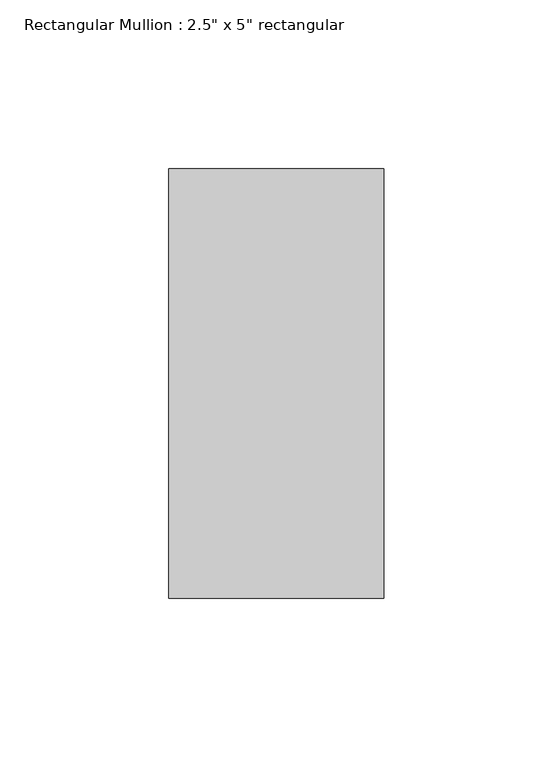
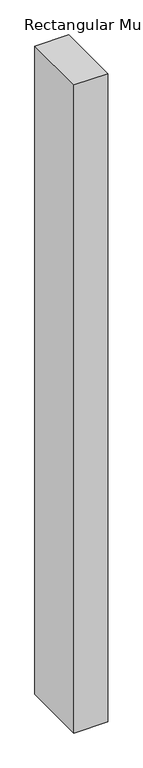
"""IFC4 building model written with IfcOpenShell, lengths in millimetres: member geometry."""

import ifcopenshell
import ifcopenshell.guid

model = None  # the IFC model being written
_history = None  # IfcOwnerHistory: only IFC2X3 demands one
_inside = {}  # id of a spatial element -> (the spatial element, [elements in it])
_under = {}  # id of a project, library or spatial element -> (it, [spatial elements below it])
_declared = {}  # id of a project -> (the project, [libraries it declares])
_typed = {}  # id of a type object -> (the type object, [elements of that type])
_made_of = {}  # id of a material, layer set ... -> (it, [elements and type objects made of it])


def new_model(schema):
    """Start an empty IFC model of exactly this schema.

    Asked for "IFC4X3", IfcOpenShell would pick the latest addendum, in which some entities
    have other attributes; the version numbers below select the first issue.
    IFC2X3 requires an IfcOwnerHistory on every rooted entity: one is made here for all.
    """
    global model, _history
    if schema == "IFC4X3":
        model = ifcopenshell.file(schema_version=(4, 3, 0, 0))
    else:
        model = ifcopenshell.file(schema=schema)
    _inside.clear()
    _under.clear()
    _declared.clear()
    _typed.clear()
    _made_of.clear()
    _history = None
    if model.schema == "IFC2X3":
        org = make("IfcOrganization", Name="unknown")
        user = make(
            "IfcPersonAndOrganization",
            ThePerson=make("IfcPerson", FamilyName="unknown"),
            TheOrganization=org,
        )
        app = make(
            "IfcApplication",
            ApplicationDeveloper=org,
            Version="unknown",
            ApplicationFullName="unknown",
            ApplicationIdentifier="unknown",
        )
        _history = make(
            "IfcOwnerHistory",
            OwningUser=user,
            OwningApplication=app,
            ChangeAction="ADDED",
            CreationDate=0,
        )
    return model


def make(cls, **values):
    """One entity of the class cls with the attributes given. An attribute that is None is left unset."""
    return model.create_entity(
        cls, **{name: value for name, value in values.items() if value is not None}
    )


def rooted(cls, **values):
    """An entity with a GlobalId (a new one), such as an element, a storey or a relation."""
    return make(cls, GlobalId=ifcopenshell.guid.new(), OwnerHistory=_history, **values)


def si_unit(unit_type, name, prefix=None):
    """IfcSIUnit, for example si_unit("LENGTHUNIT", "METRE", prefix="MILLI")."""
    return make("IfcSIUnit", UnitType=unit_type, Prefix=prefix, Name=name)


def assignment(units):
    """IfcUnitAssignment: the units of a project."""
    return None if units is None else make("IfcUnitAssignment", Units=units)


def point(xyz):
    """IfcCartesianPoint."""
    return None if xyz is None else make("IfcCartesianPoint", Coordinates=xyz)


def direction(xyz):
    """IfcDirection."""
    return None if xyz is None else make("IfcDirection", DirectionRatios=xyz)


def frame(location, z_axis=None, x_axis=None):
    """IfcAxis2Placement3D, a coordinate frame: its origin and axes. An axis left out is left unset."""
    return make(
        "IfcAxis2Placement3D",
        Location=point(location),
        Axis=direction(z_axis),
        RefDirection=direction(x_axis),
    )


def origin():
    """The frame at (0, 0, 0) with its axes left unset."""
    return frame((0.0, 0.0, 0.0))


def place(relative_to, where):
    """IfcLocalPlacement: puts the frame where relative to a parent placement (None: the world)."""
    return make(
        "IfcLocalPlacement", PlacementRelTo=relative_to, RelativePlacement=where
    )


def context(
    kind, dimensions, precision=None, world=None, true_north=None, identifier=None
):
    """IfcGeometricRepresentationContext, for example the 3D "Model" context."""
    return make(
        "IfcGeometricRepresentationContext",
        ContextIdentifier=identifier,
        ContextType=kind,
        CoordinateSpaceDimension=dimensions,
        Precision=precision,
        WorldCoordinateSystem=world,
        TrueNorth=true_north,
    )


def project(units=None, contexts=None):
    """IfcProject with its units and contexts."""
    return rooted(
        "IfcProject",
        Name="project",
        RepresentationContexts=contexts,
        UnitsInContext=assignment(units),
    )


def spatial(cls, under=None, at=None, **own):
    """A site, building, storey or space (cls), placed at a placement, below another one or the project."""
    s = rooted(cls, ObjectPlacement=at, **own)
    if under is not None:
        _under.setdefault(under.id(), (under, []))[1].append(s)
    return s


def polyline(points):
    """IfcPolyline through the points."""
    return make("IfcPolyline", Points=[point(p) for p in points])


def outline(outer, holes=None, kind="AREA"):
    """IfcArbitraryClosedProfileDef: a profile drawn as a closed curve; with holes, ...WithVoids."""
    if holes is None:
        return make("IfcArbitraryClosedProfileDef", ProfileType=kind, OuterCurve=outer)
    return make(
        "IfcArbitraryProfileDefWithVoids",
        ProfileType=kind,
        OuterCurve=outer,
        InnerCurves=holes,
    )


def extrude(swept, where, along, depth):
    """IfcExtrudedAreaSolid: the profile swept, set in the frame where, extruded along a direction by depth."""
    return make(
        "IfcExtrudedAreaSolid",
        SweptArea=swept,
        Position=where,
        ExtrudedDirection=direction(along),
        Depth=depth,
    )


def shape(context_of_items, identifier, shape_type, items):
    """IfcShapeRepresentation: the items that make up one representation, for example the "Body"."""
    return make(
        "IfcShapeRepresentation",
        ContextOfItems=context_of_items,
        RepresentationIdentifier=identifier,
        RepresentationType=shape_type,
        Items=items,
    )


def source(mapping_origin, context_of_items, identifier, shape_type, items):
    """IfcRepresentationMap: a shape defined once, which mapped items show again and again."""
    return make(
        "IfcRepresentationMap",
        MappingOrigin=mapping_origin,
        MappedRepresentation=shape(context_of_items, identifier, shape_type, items),
    )


def transform(
    local_origin,
    x_axis=None,
    y_axis=None,
    z_axis=None,
    scale=None,
    scale2=None,
    scale3=None,
    uniform=True,
):
    """IfcCartesianTransformationOperator3D, or its non-uniform kind. x_axis, y_axis, z_axis: its Axis1, 2, 3."""
    if uniform:
        return make(
            "IfcCartesianTransformationOperator3D",
            Axis1=direction(x_axis),
            Axis2=direction(y_axis),
            LocalOrigin=point(local_origin),
            Scale=scale,
            Axis3=direction(z_axis),
        )
    return make(
        "IfcCartesianTransformationOperator3DnonUniform",
        Axis1=direction(x_axis),
        Axis2=direction(y_axis),
        LocalOrigin=point(local_origin),
        Scale=scale,
        Axis3=direction(z_axis),
        Scale2=scale2,
        Scale3=scale3,
    )


def mapped(mapping_source, mapping_target):
    """IfcMappedItem: shows the shape of a source again, moved by a transform."""
    return make(
        "IfcMappedItem", MappingSource=mapping_source, MappingTarget=mapping_target
    )


def made_of(thing, what):
    """Note that an element or type object is made of a material, layer set ...; save() writes the relation."""
    if what is not None:
        _made_of.setdefault(what.id(), (what, []))[1].append(thing)
    return thing


def element(
    cls,
    number,
    at=None,
    inside=None,
    cuts=None,
    type_object=None,
    material=None,
    context=None,
    identifier="Body",
    shape_type=None,
    held_by="IfcProductDefinitionShape",
    body=None,
    shapes=None,
    **own,
):
    """One element of the class cls, such as IfcWall. Its Tag is "e" and its number.

    at: its placement. inside: the storey or other place that contains it. cuts: it is an
    opening in that element (IfcRelVoidsElement). A single representation is given by context,
    identifier, shape_type and body (its items); several are given by shapes. held_by: the class
    of the entity that holds the representations. save() writes the other relations.
    """
    e = rooted(cls, Tag="e%d" % number, ObjectPlacement=at, **own)
    if body is not None:
        shapes = [shape(context, identifier, shape_type, body)]
    if shapes is not None:
        e.Representation = make(held_by, Representations=shapes)
    if inside is not None:
        _inside.setdefault(inside.id(), (inside, []))[1].append(e)
    if cuts is not None:
        rooted(
            "IfcRelVoidsElement", RelatingBuildingElement=cuts, RelatedOpeningElement=e
        )
    if type_object is not None:
        _typed.setdefault(type_object.id(), (type_object, []))[1].append(e)
    return made_of(e, material)


def aggregate(whole, parts):
    """IfcRelAggregates: a whole, such as a stair, and the parts it consists of."""
    return rooted("IfcRelAggregates", RelatingObject=whole, RelatedObjects=parts)


def save(model, path):
    """Write the relations noted so far, then the file.

    IfcRelAggregates (storeys below a building ...), IfcRelContainedInSpatialStructure (elements
    in a storey), IfcRelDefinesByType, IfcRelAssociatesMaterial and IfcRelDeclares: one each for
    every whole, place, type object, material and project.
    """
    for whole, parts in _under.values():
        aggregate(whole, parts)
    for where, things in _inside.values():
        rooted(
            "IfcRelContainedInSpatialStructure",
            RelatedElements=things,
            RelatingStructure=where,
        )
    for kind, things in _typed.values():
        rooted("IfcRelDefinesByType", RelatedObjects=things, RelatingType=kind)
    for what, things in _made_of.values():
        rooted("IfcRelAssociatesMaterial", RelatedObjects=things, RelatingMaterial=what)
    for by, libraries in _declared.values():
        rooted("IfcRelDeclares", RelatingContext=by, RelatedDefinitions=libraries)
    model.write(path)


def member_d386c7f1(model_context):
    return source(origin(), model_context, "Body", "SweptSolid", [
        extrude(outline(polyline([(31.75, 63.5), (31.75, -63.5), (-31.75, -63.5), (-31.75, 63.5), (31.75, 63.5)])), frame((0.0, 0.0, -1289.05), z_axis=(0.0, 0.0, 1.0), x_axis=(1.0, 0.0, 0.0)), (0.0, 0.0, 1.0), 1289.05),
    ])


if __name__ == "__main__":
    model = new_model("IFC4")
    model_context = context("Model", 3, world=origin())
    ifc_project = project(units=[si_unit("LENGTHUNIT", "METRE", prefix="MILLI")], contexts=[model_context])
    site = spatial("IfcSite", under=ifc_project)
    building = spatial("IfcBuilding", under=site)
    placement = place(None, origin())
    member_shape = member_d386c7f1(model_context)
    element("IfcMember", 1, ObjectType="Rectangular Mullion : 2.5\" x 5\" rectangular", at=placement, inside=building, context=model_context, shape_type="MappedRepresentation", body=[
        mapped(member_shape, transform((0.0, 0.0, 0.0), x_axis=(1.0, 0.0, 0.0), y_axis=(0.0, 1.0, 0.0), z_axis=(0.0, 0.0, 1.0))),
    ])
    save(model, "model.ifc")
